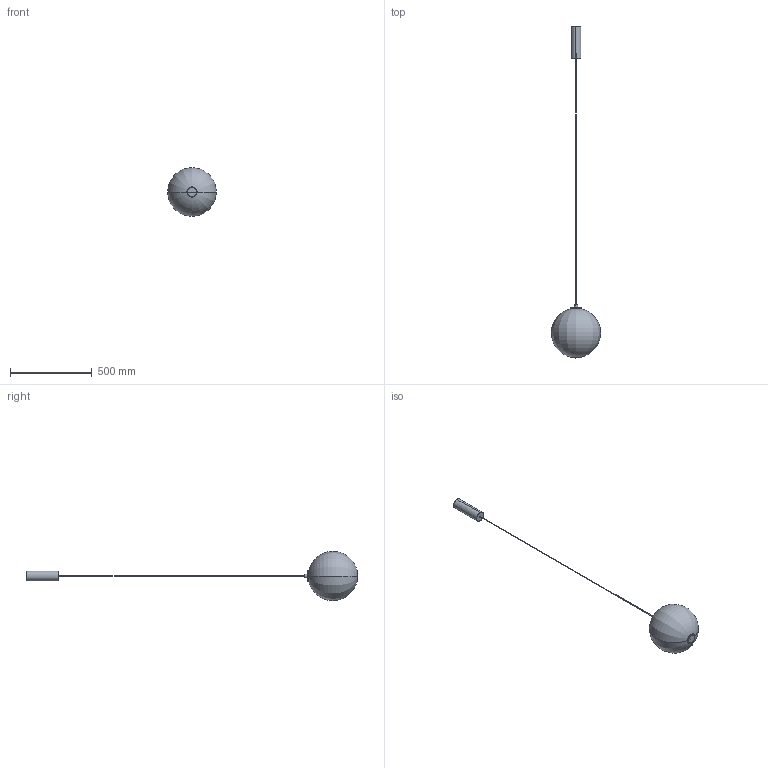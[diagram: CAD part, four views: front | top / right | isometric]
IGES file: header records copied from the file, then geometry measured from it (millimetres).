
Start section: SolidWorks IGES file using analytic representation for surfaces
Global section: file name: C:\Users\Agustin\Desktop\COMPARTIDA\Nueva Coleccion Septiembre 2026\LUDO_1368\LUDO_C1368_1\3D\LUDO_C1368_1.IGS; native system: SolidWorks 2023; preprocessor: SolidWorks 2023; author: Agustin; date: 260703.114831; units: millimetre
Bounding box: 299.87 x 2025 x 299.87 mm (x, y, z)
Surface area: 427348.9 mm2 (no closed solid volume)
Topology: 0 solids, 0 shells, 102 faces, 1196 edges, 1194 vertices
Faces by surface type: revolution 53, bspline 49
